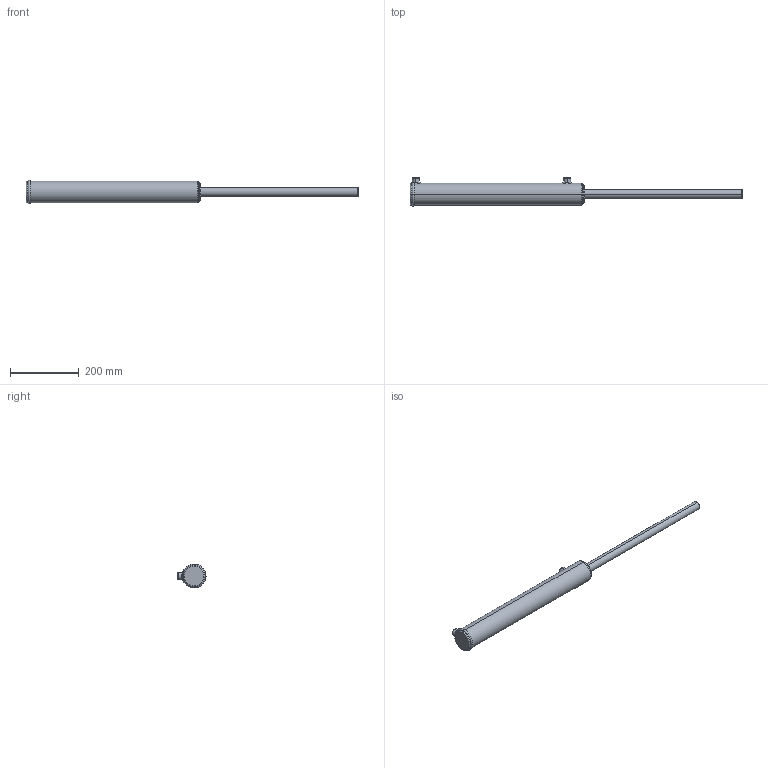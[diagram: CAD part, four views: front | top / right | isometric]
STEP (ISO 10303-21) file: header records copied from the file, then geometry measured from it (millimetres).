
FILE_DESCRIPTION (( 'STEP AP203' ), '1' );
FILE_NAME ('BL200100X406 (16) extended.STEP', '2014-11-23T21:05:18', ( '' ), ( '' ), 'SwSTEP 2.0', 'SolidWorks 2014', '' );
FILE_SCHEMA (( 'CONFIG_CONTROL_DESIGN' ));
Length unit declared in the file: millimetre
Products named in the file (3): BL body 2_2x16; Spare_2x16; BL200100X406 (16) extended
Assembly tree (2 placements, depth 2):
  BL200100X406 (16) extended
    BL body 2_2x16
    Spare_2x16
Bounding box: 963 x 81.5 x 69.5 mm (x, y, z)
Volume: 1757797.4 mm3; surface area: 176525.7 mm2
Topology: 2 solids, 2 shells, 83 faces, 192 edges, 118 vertices
Faces by surface type: cylinder 31, plane 20, torus 17, cone 8, bspline 7
Entity records: 4855 total; most frequent: CARTESIAN_POINT 2688, DIRECTION 416, ORIENTED_EDGE 376, EDGE_CURVE 188, AXIS2_PLACEMENT_3D 179, VERTEX_POINT 118, CIRCLE 98, EDGE_LOOP 96
